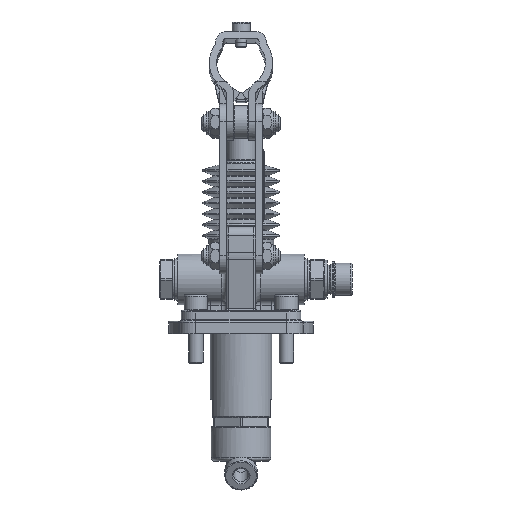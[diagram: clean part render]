
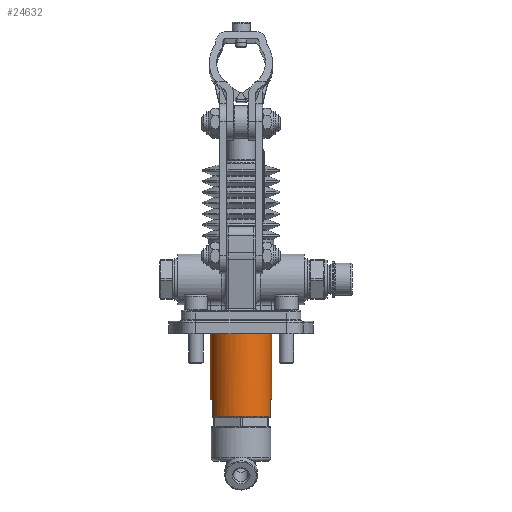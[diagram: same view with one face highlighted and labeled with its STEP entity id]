
A CAD part, left-side view. The second image highlights one B-rep face of the part: STEP entity #24632.
In plain terms, the highlighted cylindrical face has radius 17 mm (diameter 34 mm), a full revolution.
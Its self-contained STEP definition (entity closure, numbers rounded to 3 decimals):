
#24546=CARTESIAN_POINT('',(59.,34.0,-47.5));
#24547=DIRECTION('',(0.,0.,1.0));
#24548=DIRECTION('',(-1.0,0.0,0.0));
#24549=AXIS2_PLACEMENT_3D('',#24546,#24547,#24548);
#24550=CYLINDRICAL_SURFACE('',#24549,17.0);
#24551=CARTESIAN_POINT('',(53.255,50.0,-37.5));
#24552=VERTEX_POINT('',#24551);
#24553=CARTESIAN_POINT('',(53.255,50.0,-46.5));
#24554=VERTEX_POINT('',#24553);
#24555=CARTESIAN_POINT('',(53.255,50.0,-37.5));
#24556=DIRECTION('',(0.0,0.0,-1.0));
#24557=VECTOR('',#24556,9.0);
#24558=LINE('',#24555,#24557);
#24559=EDGE_CURVE('',#24552,#24554,#24558,.T.);
#24560=ORIENTED_EDGE('',*,*,#24559,.T.);
#24561=CARTESIAN_POINT('',(53.255,18.0,-46.5));
#24562=VERTEX_POINT('',#24561);
#24563=CARTESIAN_POINT('',(59.,34.0,-46.5));
#24564=DIRECTION('',(0.0,0.0,-1.0));
#24565=DIRECTION('',(-1.0,0.0,0.0));
#24566=AXIS2_PLACEMENT_3D('',#24563,#24564,#24565);
#24567=CIRCLE('',#24566,17.0);
#24568=EDGE_CURVE('',#24562,#24554,#24567,.T.);
#24569=ORIENTED_EDGE('',*,*,#24568,.F.);
#24570=CARTESIAN_POINT('',(53.255,18.0,-37.5));
#24571=VERTEX_POINT('',#24570);
#24572=CARTESIAN_POINT('',(53.255,18.0,-46.5));
#24573=DIRECTION('',(0.0,0.0,1.0));
#24574=VECTOR('',#24573,9.0);
#24575=LINE('',#24572,#24574);
#24576=EDGE_CURVE('',#24562,#24571,#24575,.T.);
#24577=ORIENTED_EDGE('',*,*,#24576,.T.);
#24578=CARTESIAN_POINT('',(64.745,18.0,-37.5));
#24579=VERTEX_POINT('',#24578);
#24580=CARTESIAN_POINT('',(59.,34.0,-37.5));
#24581=DIRECTION('',(0.0,0.0,1.0));
#24582=DIRECTION('',(-1.0,0.0,0.0));
#24583=AXIS2_PLACEMENT_3D('',#24580,#24581,#24582);
#24584=CIRCLE('',#24583,17.0);
#24585=EDGE_CURVE('',#24571,#24579,#24584,.T.);
#24586=ORIENTED_EDGE('',*,*,#24585,.T.);
#24587=CARTESIAN_POINT('',(64.745,18.0,-46.5));
#24588=VERTEX_POINT('',#24587);
#24589=CARTESIAN_POINT('',(64.745,18.0,-37.5));
#24590=DIRECTION('',(0.0,0.0,-1.0));
#24591=VECTOR('',#24590,9.0);
#24592=LINE('',#24589,#24591);
#24593=EDGE_CURVE('',#24579,#24588,#24592,.T.);
#24594=ORIENTED_EDGE('',*,*,#24593,.T.);
#24595=CARTESIAN_POINT('',(64.745,50.0,-46.5));
#24596=VERTEX_POINT('',#24595);
#24597=CARTESIAN_POINT('',(59.,34.0,-46.5));
#24598=DIRECTION('',(0.0,0.0,-1.0));
#24599=DIRECTION('',(-1.0,0.0,0.0));
#24600=AXIS2_PLACEMENT_3D('',#24597,#24598,#24599);
#24601=CIRCLE('',#24600,17.0);
#24602=EDGE_CURVE('',#24596,#24588,#24601,.T.);
#24603=ORIENTED_EDGE('',*,*,#24602,.F.);
#24604=CARTESIAN_POINT('',(64.745,50.0,-37.5));
#24605=VERTEX_POINT('',#24604);
#24606=CARTESIAN_POINT('',(64.745,50.0,-46.5));
#24607=DIRECTION('',(0.0,0.0,1.0));
#24608=VECTOR('',#24607,9.0);
#24609=LINE('',#24606,#24608);
#24610=EDGE_CURVE('',#24596,#24605,#24609,.T.);
#24611=ORIENTED_EDGE('',*,*,#24610,.T.);
#24612=CARTESIAN_POINT('',(59.,34.0,-37.5));
#24613=DIRECTION('',(0.0,0.0,1.0));
#24614=DIRECTION('',(-1.0,0.0,0.0));
#24615=AXIS2_PLACEMENT_3D('',#24612,#24613,#24614);
#24616=CIRCLE('',#24615,17.0);
#24617=EDGE_CURVE('',#24605,#24552,#24616,.T.);
#24618=ORIENTED_EDGE('',*,*,#24617,.T.);
#24619=EDGE_LOOP('',(#24560,#24569,#24577,#24586,#24594,#24603,#24611,#24618));
#24620=FACE_OUTER_BOUND('',#24619,.T.);
#24621=CARTESIAN_POINT('',(76.,34.,1.25));
#24622=VERTEX_POINT('',#24621);
#24623=CARTESIAN_POINT('',(59.,34.0,1.25));
#24624=DIRECTION('',(0.0,0.0,1.0));
#24625=DIRECTION('',(-1.0,0.0,0.0));
#24626=AXIS2_PLACEMENT_3D('',#24623,#24624,#24625);
#24627=CIRCLE('',#24626,17.0);
#24628=EDGE_CURVE('',#24622,#24622,#24627,.T.);
#24629=ORIENTED_EDGE('',*,*,#24628,.F.);
#24630=EDGE_LOOP('',(#24629));
#24631=FACE_BOUND('',#24630,.T.);
#24632=ADVANCED_FACE('',(#24620,#24631),#24550,.T.);
